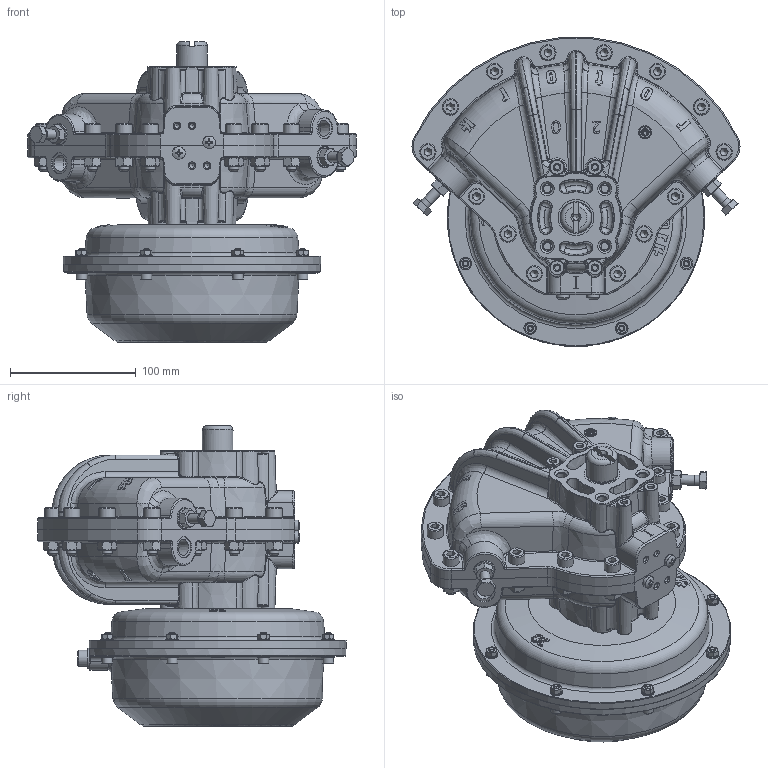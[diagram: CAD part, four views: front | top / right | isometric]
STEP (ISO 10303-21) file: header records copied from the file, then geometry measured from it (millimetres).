
FILE_DESCRIPTION(/* description */ ('Unknown'),/* implementation_level */ '2;1');
FILE_NAME(/* name */ 'D000000211_01032017',/* time_stamp */ '2017-03-02T14:57:16+05:00',/* author */ ('Unknown'),/* organization */ ('Unknown'),/* preprocessor_version */ 'ST-DEVELOPER v16.7',/* originating_system */ 'DEX',/* authorisation */ $);
FILE_SCHEMA (('AUTOMOTIVE_DESIGN {1 0 10303 214 3 1 1}'));
Length unit declared in the file: millimetre
Products named in the file (1): D000000211_01032017
Bounding box: 261.33 x 245.98 x 239.74 mm (x, y, z)
Surface area: 331057.8 mm2 (no closed solid volume)
Topology: 0 solids, 103 shells, 2971 faces, 7411 edges, 4504 vertices
Faces by surface type: plane 894, bspline 760, cone 623, cylinder 356, torus 324, sphere 14
Full cylindrical faces by diameter (mm): 4.134 x28, 4.917 x2, 5 x10, 7.805 x32, 8 x19, 8.5 x8, 10 x18, 11.63 x2, 11.862 x2, 13 x15, 16 x3, 16.993 x4, 24.41 x1, 24.98 x1, 28.5 x2, 30.5 x1, 39.975 x1, 40.1 x1, 205 x1
Entity records: 150295 total; most frequent: CARTESIAN_POINT 75026, ORIENTED_EDGE 12736, DIRECTION 11016, EDGE_CURVE 6867, AXIS2_PLACEMENT_3D 4713, VERTEX_POINT 4367, FACE_BOUND 3597, EDGE_LOOP 3560
